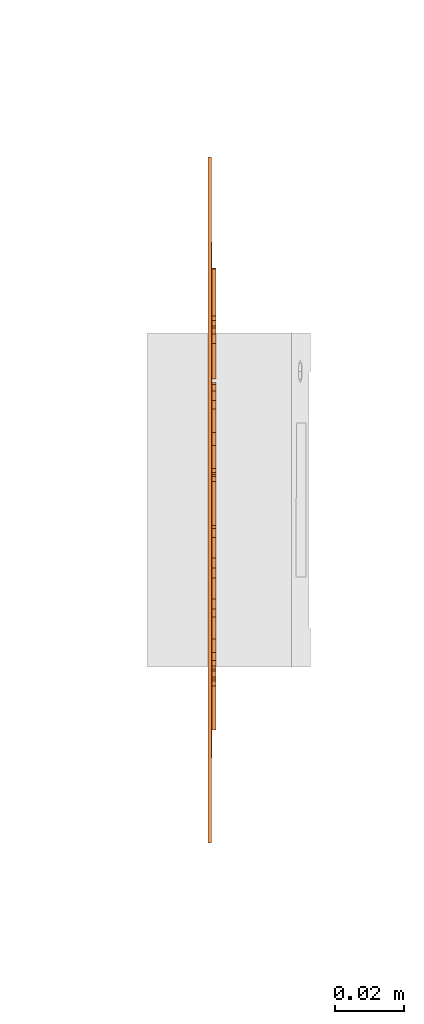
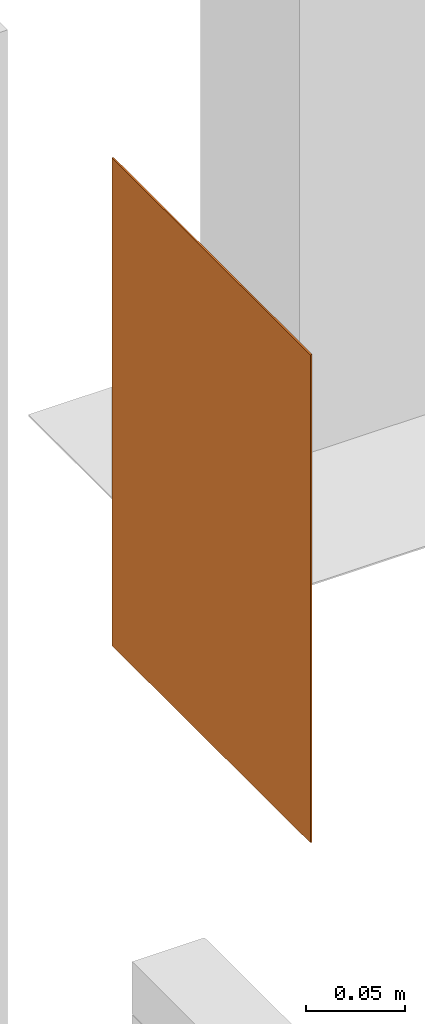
# One storey, part 100 of 119: 1 proxy.
"""IFC2X3 building model written with IfcOpenShell, lengths in metres."""

from ifc_helpers import new_model, entity, si_unit, converted_unit, derived_unit, direction, frame, frame_2d, origin, origin_2d_with_axis, place, context, subcontext, project, spatial, polyline, circle_curve, parameter, trimmed, segment, composite_curve, rectangle, circle, outline, extrude, source, transform, mapped, material, material_list, type_object, type_shapes, element, save


model = new_model("IFC2X3")

# Units and contexts
model_context = context("Model", 3, precision=1e-05, world=origin(), true_north=direction((6.12303176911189e-17, 1.0)))
body_context = subcontext(model_context, "Body", "Model", "MODEL_VIEW")
ifc_project = project(units=[si_unit("LENGTHUNIT", "METRE"), si_unit("AREAUNIT", "SQUARE_METRE"), si_unit("VOLUMEUNIT", "CUBIC_METRE"), converted_unit("PLANEANGLEUNIT", "DEGREE", entity("IfcRatioMeasure", 0.0174532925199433), si_unit("PLANEANGLEUNIT", "RADIAN"), dimensions=[0, 0, 0, 0, 0, 0, 0]), si_unit("MASSUNIT", "GRAM", prefix="KILO"), derived_unit("MASSDENSITYUNIT", [(si_unit("MASSUNIT", "GRAM", prefix="KILO"), 1), (si_unit("LENGTHUNIT", "METRE"), -3)]), derived_unit("MOMENTOFINERTIAUNIT", [(si_unit("LENGTHUNIT", "METRE"), 4)]), si_unit("TIMEUNIT", "SECOND"), si_unit("FREQUENCYUNIT", "HERTZ"), si_unit("THERMODYNAMICTEMPERATUREUNIT", "DEGREE_CELSIUS"), derived_unit("THERMALTRANSMITTANCEUNIT", [(si_unit("MASSUNIT", "GRAM", prefix="KILO"), 1), (si_unit("THERMODYNAMICTEMPERATUREUNIT", "KELVIN"), -1), (si_unit("TIMEUNIT", "SECOND"), -3)]), derived_unit("VOLUMETRICFLOWRATEUNIT", [(si_unit("LENGTHUNIT", "METRE"), 3), (si_unit("TIMEUNIT", "SECOND"), -1)]), si_unit("ELECTRICCURRENTUNIT", "AMPERE"), si_unit("ELECTRICVOLTAGEUNIT", "VOLT"), si_unit("POWERUNIT", "WATT"), si_unit("FORCEUNIT", "NEWTON", prefix="KILO"), si_unit("ILLUMINANCEUNIT", "LUX"), si_unit("LUMINOUSFLUXUNIT", "LUMEN"), si_unit("LUMINOUSINTENSITYUNIT", "CANDELA"), derived_unit("USERDEFINED", [(si_unit("MASSUNIT", "GRAM", prefix="KILO"), -1), (si_unit("LENGTHUNIT", "METRE"), -2), (si_unit("TIMEUNIT", "SECOND"), 3), (si_unit("LUMINOUSFLUXUNIT", "LUMEN"), 1)]), derived_unit("LINEARVELOCITYUNIT", [(si_unit("LENGTHUNIT", "METRE"), 1), (si_unit("TIMEUNIT", "SECOND"), -1)]), si_unit("PRESSUREUNIT", "PASCAL"), derived_unit("USERDEFINED", [(si_unit("LENGTHUNIT", "METRE"), -2), (si_unit("MASSUNIT", "GRAM", prefix="KILO"), 1), (si_unit("TIMEUNIT", "SECOND"), -2)]), derived_unit("LINEARFORCEUNIT", [(si_unit("MASSUNIT", "GRAM", prefix="KILO"), 1), (si_unit("LENGTHUNIT", "METRE"), 1), (si_unit("TIMEUNIT", "SECOND"), -2), (si_unit("LENGTHUNIT", "METRE"), -1)]), derived_unit("PLANARFORCEUNIT", [(si_unit("MASSUNIT", "GRAM", prefix="KILO"), 1), (si_unit("LENGTHUNIT", "METRE"), 1), (si_unit("TIMEUNIT", "SECOND"), -2), (si_unit("LENGTHUNIT", "METRE"), -2)])], contexts=[model_context])

# Site, building, storey
site_placement = place(None, origin())
site = spatial("IfcSite", under=ifc_project, at=site_placement, Name="Default", CompositionType="ELEMENT")
building_placement = place(site_placement, origin())
building = spatial("IfcBuilding", under=site, at=building_placement, CompositionType="ELEMENT")
storey_placement = place(building_placement, origin())
storey = spatial("IfcBuildingStorey", under=building, at=storey_placement, Name="PAV. 01 - TÉRREO", CompositionType="ELEMENT", Elevation=0.0)

# Proxy
ifc_material_1 = material(Name="Plastico branco")
ifc_material_2 = material(Name="Plastico vermelho")
ifc_material_list = material_list([ifc_material_1, ifc_material_2])
building_element_proxy_type = type_object("IfcBuildingElementProxyType", Name="Sinalização de equipamentos - E03 - Comando manual de alarme ou bomba de incêndio:Distância 08m", PredefinedType="NOTDEFINED", material=ifc_material_1)
shared_shape = source(origin(), body_context, "Body", "SweptSolid", [
    extrude(outline(polyline([(-0.0108486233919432, -0.00904349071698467), (-0.00328343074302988, -0.00904349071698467), (6.49098100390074e-05, -0.00886064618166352), (0.00203963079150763, -0.008094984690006), (0.0034909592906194, -0.0065453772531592), (0.00407149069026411, -0.00437638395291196), (0.00337896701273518, -0.00199026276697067), (0.00149795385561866, -0.00035837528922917), (0.00383836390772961, 0.00130550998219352), (0.00465659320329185, 0.00407103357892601), (0.00406920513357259, 0.0065051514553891), (0.00246474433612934, 0.00839302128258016), (-4.25113544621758e-05, 0.00926381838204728), (-0.00454962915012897, 0.00938723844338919), (-0.0108486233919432, 0.00938723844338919), (-0.0108486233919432, -0.00904349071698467)]), holes=[polyline([(-0.00733800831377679, -0.00582542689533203), (-0.00733800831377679, -0.00172970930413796), (-0.00465933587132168, -0.00172970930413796), (-0.00168811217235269, -0.00178913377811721), (-4.02257977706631e-05, -0.00242451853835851), (-0.00149612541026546, -0.00576600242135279), (-0.00498845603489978, -0.00582542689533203), (-0.00733800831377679, -0.00582542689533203)]), polyline([(-0.00733800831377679, 0.00148835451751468), (-0.00733800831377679, 0.00616917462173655), (-0.00362626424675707, 0.00616917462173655), (-0.000874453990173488, 0.0060594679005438), (0.000583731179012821, 0.00536237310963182), (0.00114597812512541, 0.00387447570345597), (-0.00409708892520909, 0.00148835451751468), (-0.00733800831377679, 0.00148835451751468)])]), frame((-0.0562918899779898, -0.0022123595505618, 1.53648594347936), z_axis=(0.0, 1.0, 0.0), x_axis=(1.0, 0.0, 0.0)), (0.0, 0.0, 1.0), 0.0022123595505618),
    extrude(outline(polyline([(-0.00274131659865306, -0.00723537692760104), (0.00204807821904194, -0.00723537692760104), (0.00482213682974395, -0.00601174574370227), (0.00685816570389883, -0.00399502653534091), (0.00824841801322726, -0.000275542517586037), (0.00687087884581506, 0.00646330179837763), (0.00038103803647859, 0.0100380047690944), (-0.00689652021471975, 0.00889649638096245), (-0.0104736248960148, 0.00305448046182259), (-0.00911725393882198, -0.00369921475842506), (-0.00274131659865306, -0.00723537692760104)]), holes=[polyline([(-0.00200878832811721, -0.00379965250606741), (-0.00638392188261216, -0.00151705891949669), (-0.0073047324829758, 0.00249405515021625), (-0.00508828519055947, 0.00593636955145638), (-0.000139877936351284, 0.00656516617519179), (0.00422261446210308, 0.00434280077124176), (0.00508584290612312, 0.000320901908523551), (0.00288428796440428, -0.00318203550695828), (-0.00200878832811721, -0.00379965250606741)])]), frame((-0.0416947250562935, -0.0022123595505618, 1.53764997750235), z_axis=(0.0, 1.0, 0.0), x_axis=(0.172750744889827, 0.0, 0.984965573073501)), (0.0, 0.0, 1.0), 0.0022123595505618),
    extrude(outline(polyline([(-0.00835388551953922, -0.00892316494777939), (0.0100768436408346, -0.00892316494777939), (0.0100768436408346, -0.00290757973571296), (-0.00249371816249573, -3.51624106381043e-07), (0.0100768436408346, 0.0029068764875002), (0.0100768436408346, 0.00892246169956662), (-0.00835388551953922, 0.00892246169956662), (-0.00835388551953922, 0.0054118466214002), (0.00615482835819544, 0.00526557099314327), (-0.00835388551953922, 0.00205664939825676), (-0.00835388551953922, -0.00205278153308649), (0.00615482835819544, -0.00526627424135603), (-0.00835388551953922, -0.00541254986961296), (-0.00835388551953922, -0.00892316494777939)])), frame((-0.0198931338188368, -0.0022123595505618, 1.53545259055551), z_axis=(0.0, 1.0, 0.0), x_axis=(0.0, 0.0, 1.0)), (0.0, 0.0, 1.0), 0.0022123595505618),
    extrude(outline(polyline([(-0.0108486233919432, -0.00904349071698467), (-0.00328343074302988, -0.00904349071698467), (6.49098100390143e-05, -0.00886064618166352), (0.00203963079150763, -0.008094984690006), (0.00349095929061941, -0.0065453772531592), (0.00407149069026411, -0.00437638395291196), (0.00337896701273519, -0.00199026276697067), (0.00149795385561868, -0.00035837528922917), (0.00383836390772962, 0.00130550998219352), (0.00465659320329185, 0.00407103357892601), (0.00406920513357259, 0.0065051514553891), (0.00246474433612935, 0.00839302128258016), (-4.25113544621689e-05, 0.00926381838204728), (-0.00454962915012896, 0.00938723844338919), (-0.0108486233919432, 0.00938723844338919), (-0.0108486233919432, -0.00904349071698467)]), holes=[polyline([(-0.00733800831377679, -0.00582542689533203), (-0.00733800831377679, -0.00172970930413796), (-0.00465933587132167, -0.00172970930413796), (-0.00168811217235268, -0.00178913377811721), (-4.02257977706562e-05, -0.00242451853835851), (-0.00149612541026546, -0.00576600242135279), (-0.00498845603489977, -0.00582542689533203), (-0.00733800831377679, -0.00582542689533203)]), polyline([(-0.00733800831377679, 0.00148835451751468), (-0.00733800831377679, 0.00616917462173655), (-0.00362626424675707, 0.00616917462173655), (-0.00087445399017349, 0.0060594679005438), (0.000583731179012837, 0.00536237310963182), (0.00114597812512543, 0.00387447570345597), (-0.00409708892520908, 0.00148835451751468), (-0.00733800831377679, 0.00148835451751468)])]), frame((0.00338856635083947, -0.0022123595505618, 1.53648594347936), z_axis=(0.0, 1.0, 0.0), x_axis=(1.0, 0.0, 0.0)), (0.0, 0.0, 1.0), 0.0022123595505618),
    extrude(outline(polyline([(-0.00862797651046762, -0.00563161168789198), (-0.00493908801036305, -0.00563161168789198), (-0.00349461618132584, -0.00153589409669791), (0.00346718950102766, -0.00153589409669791), (0.00489337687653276, -0.00563161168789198), (0.00863254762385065, -0.00563161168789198), (0.00190386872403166, 0.0127991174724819), (-0.00183530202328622, 0.0127991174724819), (-0.00862797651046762, -0.00563161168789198)]), holes=[polyline([(-0.00237012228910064, 0.00168216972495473), (2.28555669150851e-06, 0.00841084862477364), (0.00234269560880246, 0.00168216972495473), (-0.00237012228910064, 0.00168216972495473)])]), frame((0.0178479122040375, -0.0022123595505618, 1.53273031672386), z_axis=(0.0, 1.0, 0.0), x_axis=(-1.0, 0.0, 0.0)), (0.0, 0.0, 1.0), 0.0022123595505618),
    extrude(outline(polyline([(-0.00963237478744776, -0.00923822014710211), (-0.00280770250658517, -0.00923822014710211), (0.000712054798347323, -0.00888624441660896), (0.00350043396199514, -0.00718807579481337), (0.00526716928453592, -0.00420313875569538), (0.00587284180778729, 0.000155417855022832), (0.00530602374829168, 0.00407743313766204), (0.003322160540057, 0.00733206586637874), (0.000698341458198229, 0.00880396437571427), (-0.00260657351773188, 0.00919250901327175), (-0.00963237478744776, 0.00919250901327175), (-0.00963237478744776, -0.00923822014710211)]), holes=[polyline([(-0.00612175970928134, -0.00602015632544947), (-0.00612175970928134, 0.00597444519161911), (-0.00313225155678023, 0.00597444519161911), (-0.000709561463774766, 0.00580074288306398), (0.000906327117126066, 0.00504879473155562), (0.00195539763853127, 0.00330034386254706), (0.00236222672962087, -1.82844535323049e-05), (0.00195539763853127, -0.00324091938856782), (0.000819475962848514, -0.00499622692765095), (-0.00103411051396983, -0.00584645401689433), (-0.00432074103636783, -0.00602015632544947), (-0.00612175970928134, -0.00602015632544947)])]), frame((0.0448848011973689, -0.0022123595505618, 1.53629121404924), z_axis=(0.0, 1.0, 0.0), x_axis=(1.0, 0.0, 0.0)), (0.0, 0.0, 1.0), 0.0022123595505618),
    extrude(outline(polyline([(-0.00931288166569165, -0.00799640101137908), (0.00911784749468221, -0.00799640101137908), (0.00911784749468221, 0.00575350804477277), (0.00589978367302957, 0.00575350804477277), (0.00589978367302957, -0.00448578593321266), (0.0018040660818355, -0.00448578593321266), (0.0018040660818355, 0.00516840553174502), (-0.00141399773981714, 0.00516840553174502), (-0.00141399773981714, -0.00448578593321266), (-0.00609481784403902, -0.00448578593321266), (-0.00609481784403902, 0.00604605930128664), (-0.00931288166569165, 0.00604605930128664), (-0.00931288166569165, -0.00799640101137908)])), frame((0.061679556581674, -0.0022123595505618, 1.53641158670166), z_axis=(0.0, 1.0, 0.0), x_axis=(0.0, 0.0, 1.0)), (0.0, 0.0, 1.0), 0.0022123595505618),
    extrude(rectangle(XDim=0.0022123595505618, YDim=0.00351061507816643, at=frame_2d((0.0, -4.22838847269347e-18), x_axis=(1.0, 0.0))), frame((-0.0588028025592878, -0.0011061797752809, 1.49460223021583), z_axis=(0.0, 0.0, 1.0), x_axis=(0.0, 1.0, 0.0)), (0.0, 0.0, 1.0), 0.0184307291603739),
    extrude(outline(polyline([(-0.00919708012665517, -0.00744862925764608), (0.00923364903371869, -0.00744862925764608), (0.00923364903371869, -0.00376888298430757), (-0.00317235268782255, 0.00396086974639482), (0.00923364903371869, 0.00396086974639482), (0.00923364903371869, 0.00747148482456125), (-0.00919708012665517, 0.00747148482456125), (-0.00919708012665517, 0.00367746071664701), (0.00302607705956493, -0.00393801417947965), (-0.00919708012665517, -0.00393801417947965), (-0.00919708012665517, -0.00744862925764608)])), frame((-0.046088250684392, -0.0022123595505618, 1.50379931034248), z_axis=(0.0, 1.0, 0.0), x_axis=(0.0, 0.0, 1.0)), (0.0, 0.0, 1.0), 0.0022123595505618),
    extrude(outline(polyline([(0.00431987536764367, 0.00106265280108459), (0.0080203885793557, 0.00106265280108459), (0.00679097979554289, 0.00611977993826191), (0.0025895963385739, 0.00904043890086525), (-0.00392677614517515, 0.00861545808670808), (-0.00830378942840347, 0.00297217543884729), (-0.00825825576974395, -0.00444402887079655), (-0.00308837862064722, -0.00880297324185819), (0.00280208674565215, -0.00859337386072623), (0.0057075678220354, -0.00587580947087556), (0.00256213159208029, -0.004210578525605), (0.000503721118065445, -0.0057818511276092), (-0.00230057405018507, -0.00567343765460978), (-0.00522195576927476, -0.00319871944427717), (-0.00505861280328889, 0.00160616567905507), (-0.0022796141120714, 0.00575840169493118), (0.00144185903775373, 0.00603088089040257), (0.00369975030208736, 0.00431216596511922), (0.00431987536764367, 0.00106265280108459)])), frame((-0.0268737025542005, -0.0022123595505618, 1.50399764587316), z_axis=(0.0, 1.0, 0.0), x_axis=(0.948683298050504, 0.0, -0.316227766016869)), (0.0, 0.0, 1.0), 0.0022123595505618),
    extrude(outline(polyline([(-0.00931288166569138, -0.00799640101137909), (0.00911784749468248, -0.00799640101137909), (0.00911784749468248, 0.00575350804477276), (0.00589978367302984, 0.00575350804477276), (0.00589978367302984, -0.00448578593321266), (0.00180406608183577, -0.00448578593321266), (0.00180406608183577, 0.00516840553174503), (-0.00141399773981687, 0.00516840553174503), (-0.00141399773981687, -0.00448578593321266), (-0.00609481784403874, -0.00448578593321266), (-0.00609481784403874, 0.00604605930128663), (-0.00931288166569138, 0.00604605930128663), (-0.00931288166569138, -0.00799640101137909)])), frame((-0.00867902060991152, -0.0022123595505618, 1.50391511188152), z_axis=(0.0, 1.0, 0.0), x_axis=(0.0, 0.0, 1.0)), (0.0, 0.0, 1.0), 0.0022123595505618),
    extrude(outline(polyline([(-0.00919708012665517, -0.00744862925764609), (0.00923364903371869, -0.00744862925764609), (0.00923364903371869, -0.00376888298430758), (-0.00317235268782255, 0.00396086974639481), (0.00923364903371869, 0.00396086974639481), (0.00923364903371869, 0.00747148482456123), (-0.00919708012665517, 0.00747148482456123), (-0.00919708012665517, 0.003677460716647), (0.00302607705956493, -0.00393801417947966), (-0.00919708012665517, -0.00393801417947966), (-0.00919708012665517, -0.00744862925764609)])), frame((0.00774118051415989, -0.0022123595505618, 1.50379931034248), z_axis=(0.0, 1.0, 0.0), x_axis=(0.0, 0.0, 1.0)), (0.0, 0.0, 1.0), 0.0022123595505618),
    extrude(outline(polyline([(-0.00963237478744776, -0.00923822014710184), (-0.00280770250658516, -0.00923822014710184), (0.000712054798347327, -0.00888624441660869), (0.00350043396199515, -0.00718807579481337), (0.00526716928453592, -0.00420313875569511), (0.0058728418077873, 0.000155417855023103), (0.00530602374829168, 0.00407743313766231), (0.003322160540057, 0.00733206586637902), (0.000698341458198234, 0.00880396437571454), (-0.00260657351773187, 0.00919250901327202), (-0.00963237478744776, 0.00919250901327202), (-0.00963237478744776, -0.00923822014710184)]), holes=[polyline([(-0.00612175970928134, -0.0060201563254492), (-0.00612175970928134, 0.00597444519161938), (-0.00313225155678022, 0.00597444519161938), (-0.000709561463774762, 0.00580074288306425), (0.00090632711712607, 0.00504879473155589), (0.00195539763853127, 0.00330034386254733), (0.00236222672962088, -1.82844535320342e-05), (0.00195539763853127, -0.00324091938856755), (0.000819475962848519, -0.00499622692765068), (-0.00103411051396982, -0.00584645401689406), (-0.00432074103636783, -0.0060201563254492), (-0.00612175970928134, -0.0060201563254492)])]), frame((0.0283556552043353, -0.0022123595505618, 1.5037947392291), z_axis=(0.0, 1.0, 0.0), x_axis=(1.0, 0.0, 0.0)), (0.0, 0.0, 1.0), 0.0022123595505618),
    extrude(rectangle(XDim=0.0022123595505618, YDim=0.00351061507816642, at=origin_2d_with_axis()), frame((0.0389093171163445, -0.0011061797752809, 1.49460223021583), z_axis=(0.0, 0.0, 1.0), x_axis=(0.0, 1.0, 0.0)), (0.0, 0.0, 1.0), 0.0184307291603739),
    extrude(outline(polyline([(-0.0027413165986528, -0.0072353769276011), (0.0020480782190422, -0.0072353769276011), (0.00482213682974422, -0.00601174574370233), (0.00685816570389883, -0.00399502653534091), (0.00824841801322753, -0.000275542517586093), (0.00687087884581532, 0.00646330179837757), (0.000381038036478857, 0.0100380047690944), (-0.00689652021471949, 0.0088964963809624), (-0.0104736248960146, 0.00305448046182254), (-0.00911725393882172, -0.00369921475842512), (-0.0027413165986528, -0.0072353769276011)]), holes=[polyline([(-0.00200878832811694, -0.00379965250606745), (-0.00638392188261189, -0.00151705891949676), (-0.00730473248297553, 0.00249405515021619), (-0.00508828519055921, 0.00593636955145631), (-0.000139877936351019, 0.00656516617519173), (0.00422261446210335, 0.00434280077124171), (0.00508584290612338, 0.000320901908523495), (0.00288428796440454, -0.00318203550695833), (-0.00200878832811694, -0.00379965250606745)])]), frame((0.0511902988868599, -0.0022123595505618, 1.50515350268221), z_axis=(0.0, 1.0, 0.0), x_axis=(0.172750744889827, 0.0, 0.984965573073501)), (0.0, 0.0, 1.0), 0.0022123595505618),
    extrude(outline(polyline([(-0.00331762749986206, -0.00249092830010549), (0.000995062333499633, -0.00249092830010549), (0.00269430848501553, -0.00010950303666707), (0.00127033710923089, 0.00393891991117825), (-0.000258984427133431, 0.00179563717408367), (0.0004052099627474, -0.000295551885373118), (-0.00178830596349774, -0.00034764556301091), (-0.00331762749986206, -0.00249092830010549)])), frame((-0.00979524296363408, -0.0022123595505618, 1.51574950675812), z_axis=(0.0, 1.0, 0.0), x_axis=(0.580837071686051, 0.0, 0.814019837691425)), (0.0, 0.0, 1.0), 0.0022123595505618),
    extrude(circle(Radius=0.0367452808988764, at=frame_2d((-5.36303450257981e-23, -2.70716782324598e-16), x_axis=(1.0, 0.0))), frame((0.0, -0.0011, 1.64973853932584), z_axis=(0.0, 1.0, 0.0), x_axis=(1.0, 0.0, 0.0)), (0.0, 0.0, 1.0), 0.0011),
    extrude(outline(polyline([(-0.0713787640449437, -0.075200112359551), (0.0713787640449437, -0.075200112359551), (0.0752001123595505, -0.0713787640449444), (0.0752001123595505, 0.0713787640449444), (0.0713787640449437, 0.075200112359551), (-0.0713787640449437, 0.075200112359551), (-0.0752001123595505, 0.0713787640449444), (-0.0752001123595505, -0.0713787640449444), (-0.0713787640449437, -0.075200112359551)]), holes=[composite_curve([segment(trimmed(circle_curve(origin_2d_with_axis(), 0.0583057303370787), [parameter(180.0)], [parameter(360.0)], True, "PARAMETER"), False, "CONTINUOUS"), segment(trimmed(circle_curve(origin_2d_with_axis(), 0.0583057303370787), [parameter(0.0)], [parameter(180.0)], True, "PARAMETER"), False, "CONTINUOUS")], self_intersect=False)]), frame((0.0, -0.0011, 1.64973853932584), z_axis=(0.0, 1.0, 0.0), x_axis=(1.0, 0.0, 0.0)), (0.0, 0.0, 1.0), 0.0011),
    extrude(rectangle(XDim=0.001, YDim=0.179, at=origin_2d_with_axis()), frame((0.0, -0.0005, 1.4605), z_axis=(0.0, 0.0, 1.0), x_axis=(0.0, 1.0, 0.0)), (0.0, 0.0, 1.0), 0.279),
    extrude(outline(polyline([(-0.150000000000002, -0.1), (0.150000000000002, -0.1), (0.150000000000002, 0.1), (-0.150000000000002, 0.1), (-0.150000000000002, -0.1)]), holes=[polyline([(-0.139500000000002, -0.0895000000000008), (-0.139500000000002, 0.0894999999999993), (0.139499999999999, 0.0894999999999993), (0.139499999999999, -0.0895000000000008), (-0.139500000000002, -0.0895000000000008)])]), frame((0.0, -0.001, 1.6), z_axis=(0.0, 1.0, 0.0), x_axis=(0.0, 0.0, -1.0)), (0.0, 0.0, 1.0), 0.001),
])
type_shapes(building_element_proxy_type, [shared_shape])
proxy_placement = place(storey_placement, frame((79.6740605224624, 20.6397894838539, 0.0), z_axis=(0.0, 0.0, 1.0), x_axis=(0.0, 1.0, 0.0)))
element("IfcBuildingElementProxy", 1, at=proxy_placement, inside=storey, type_object=building_element_proxy_type, material=ifc_material_list, Name="Sinalização de equipamentos - E03 - Comando manual de alarme ou bomba de incêndio:Distância 08m", ObjectType="Sinalização de equipamentos - E03 - Comando manual de alarme ou bomba de incêndio:Distância 08m", context=body_context, shape_type="MappedRepresentation", body=[
    mapped(shared_shape, transform((0.0, 0.0, 0.0), scale=1.0)),
])

save(model, "model.ifc")
